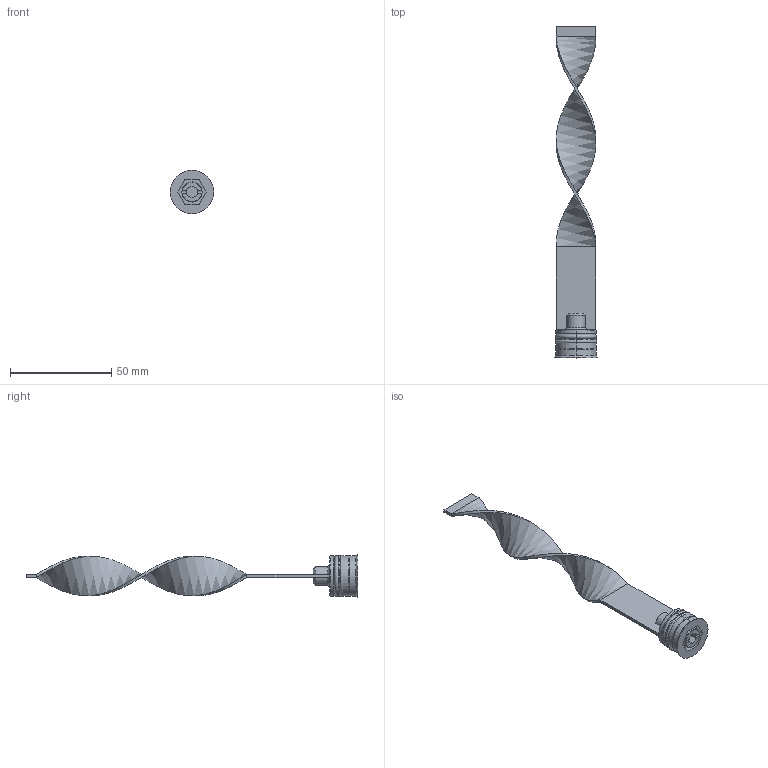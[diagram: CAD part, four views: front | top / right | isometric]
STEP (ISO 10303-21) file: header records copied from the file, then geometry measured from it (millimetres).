
FILE_DESCRIPTION (( 'STEP AP203' ), '1' );
FILE_NAME ('RLS20Fx150-19,5.STEP', '2015-12-10T14:29:18', ( 'Balzi' ), ( '' ), 'SwSTEP 2.0', 'SolidWorks 2015', '' );
FILE_SCHEMA (( 'CONFIG_CONTROL_DESIGN' ));
Length unit declared in the file: millimetre
Products named in the file (1): RLS20Fx150-19,5
Bounding box: 21.5 x 164 x 21.5 mm (x, y, z)
Volume: 8853 mm3; surface area: 8802.8 mm2
Topology: 1 solids, 1 shells, 83 faces, 193 edges, 117 vertices
Faces by surface type: plane 35, cone 19, cylinder 17, torus 8, bspline 4
Entity records: 3229 total; most frequent: CARTESIAN_POINT 1264, DIRECTION 406, ORIENTED_EDGE 386, EDGE_CURVE 193, AXIS2_PLACEMENT_3D 151, VERTEX_POINT 117, LINE 104, VECTOR 104
